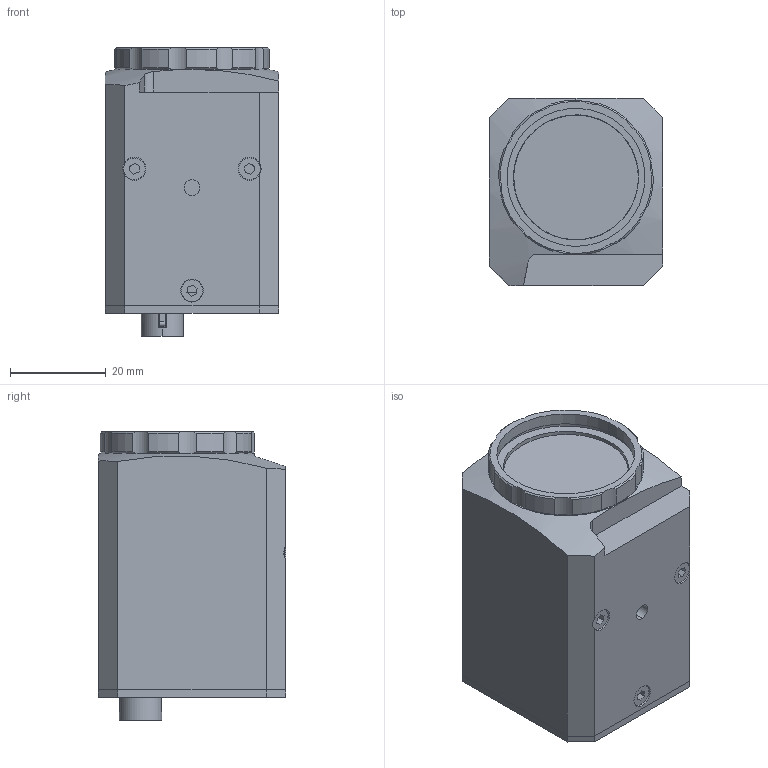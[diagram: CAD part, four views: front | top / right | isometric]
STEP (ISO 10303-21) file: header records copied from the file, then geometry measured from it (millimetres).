
FILE_DESCRIPTION (( 'STEP AP214' ), '1' );
FILE_NAME ('BeamPro Phi25 B.STEP', '2023-02-27T10:16:54', ( '' ), ( '' ), 'SwSTEP 2.0', 'SolidWorks 2020', '' );
FILE_SCHEMA (( 'AUTOMOTIVE_DESIGN' ));
Length unit declared in the file: millimetre
Products named in the file (1): BeamPro Phi25 B
Bounding box: 36.1 x 39 x 60.12 mm (x, y, z)
Surface area: 13382.8 mm2 (no closed solid volume)
Topology: 0 solids, 18 shells, 341 faces, 1184 edges, 860 vertices
Faces by surface type: plane 156, cylinder 133, cone 39, torus 11, sphere 2
Entity records: 18150 total; most frequent: CARTESIAN_POINT 5560, ORIENTED_EDGE 1906, DIRECTION 1355, EDGE_CURVE 1184, VERTEX_POINT 860, B_SPLINE_CURVE_WITH_KNOTS 692, AXIS2_PLACEMENT_3D 525, EDGE_LOOP 399
